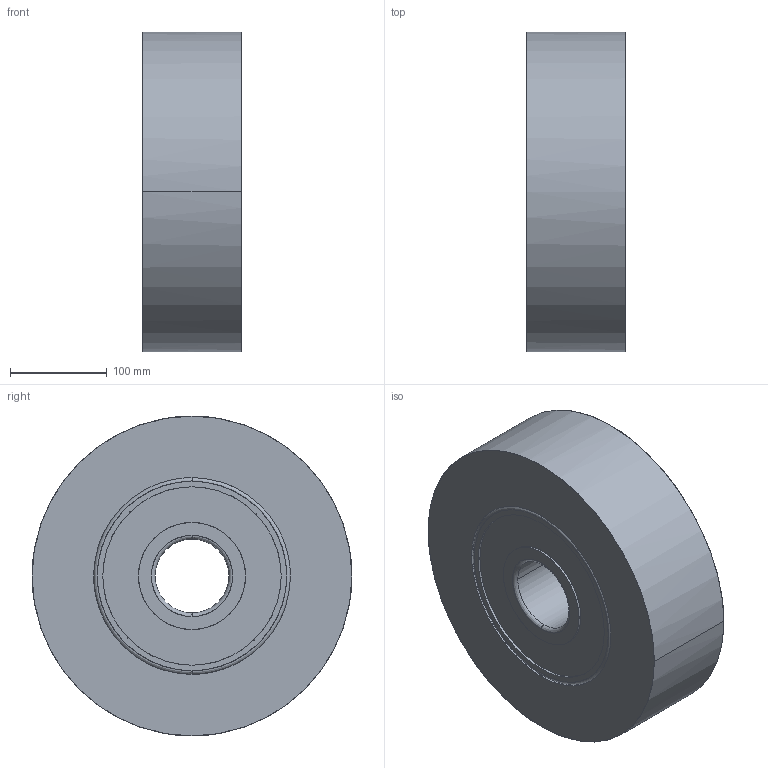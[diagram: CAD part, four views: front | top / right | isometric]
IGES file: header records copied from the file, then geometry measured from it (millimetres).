
Global section: native system: Kubotek KeyCreator; preprocessor: KCM Version 1.1.1442.0; author: KeyCreator User; organization: Self; date: 20170714.084958; units: inch
Bounding box: 101.6 x 330.2 x 330.2 mm (x, y, z)
Surface area: 303496.1 mm2 (no closed solid volume)
Topology: 0 solids, 0 shells, 32 faces, 208 edges, 208 vertices
Faces by surface type: bspline 32
